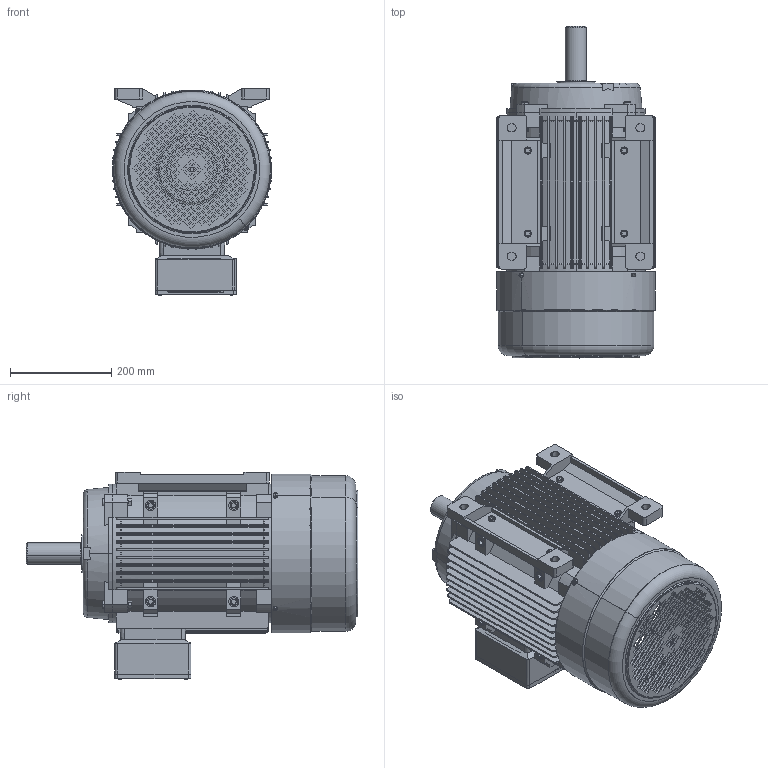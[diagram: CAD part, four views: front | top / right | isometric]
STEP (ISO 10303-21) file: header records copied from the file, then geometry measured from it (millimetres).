
FILE_DESCRIPTION (( 'STEP AP203' ), '1' );
FILE_NAME ('160L-B3.STEP', '2023-02-21T10:17:10', ( '' ), ( '' ), 'SwSTEP 2.0', 'SolidWorks 2018', '' );
FILE_SCHEMA (( 'CONFIG_CONTROL_DESIGN' ));
Length unit declared in the file: millimetre
Products named in the file (12): 160粣芛; 160L-B3; 160 蚐猾; 112-蹟隊; 160諉盄碟裔; 160 蹟譫; 160菁褐L; 160B3裔; 160瑞欶; 160諉盄碟釱; 160L; 160 蹟邡
Assembly tree (27 placements, depth 2):
  160L-B3
    160L
    160B3裔
    160 蹟邡  x8
    160 蹟譫  x4
    160粣芛
    160 蚐猾
    160諉盄碟釱
    160諉盄碟裔
    112-蹟隊  x6
    160瑞欶
    160菁褐L  x2
Bounding box: 313.76 x 655 x 408.73 mm (x, y, z)
Volume: 5626405.9 mm3; surface area: 2222709.1 mm2
Topology: 27 solids, 27 shells, 2921 faces, 8228 edges, 5435 vertices
Faces by surface type: plane 2241, cylinder 538, cone 95, torus 35, sphere 12
Entity records: 88134 total; most frequent: CARTESIAN_POINT 16997, ORIENTED_EDGE 14874, DIRECTION 13218, EDGE_CURVE 7437, LINE 6118, VECTOR 6118, VERTEX_POINT 4935, AXIS2_PLACEMENT_3D 3550
